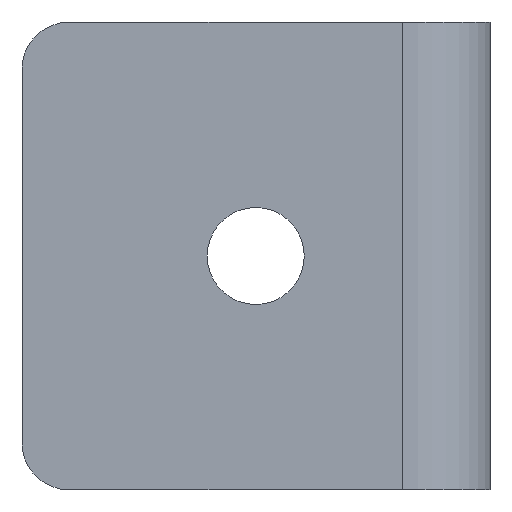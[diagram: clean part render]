
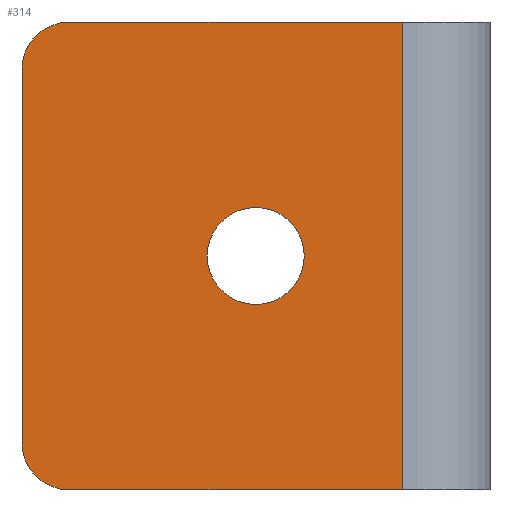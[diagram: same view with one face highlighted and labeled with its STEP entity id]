
A CAD part, left-side view. The second image highlights one B-rep face of the part: STEP entity #314.
In plain terms, the highlighted planar face has unit normal (-1, 0, 0).
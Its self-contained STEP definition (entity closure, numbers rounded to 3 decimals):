
#10 = VECTOR ( 'NONE', #50, 1000. ) ;
#19 = LINE ( 'NONE', #334, #174 ) ;
#26 = ORIENTED_EDGE ( 'NONE', *, *, #521, .T. ) ;
#46 = DIRECTION ( 'NONE',  ( 0., 0., 1. ) ) ;
#47 = CARTESIAN_POINT ( 'NONE',  ( -4.849, 35.049, 20. ) ) ;
#50 = DIRECTION ( 'NONE',  ( 0., -1., 0. ) ) ;
#66 = CARTESIAN_POINT ( 'NONE',  ( -4.849, 2.5, 20. ) ) ;
#70 = DIRECTION ( 'NONE',  ( 1., 0., 0. ) ) ;
#96 = LINE ( 'NONE', #47, #415 ) ;
#98 = EDGE_CURVE ( 'NONE', #247, #515, #498, .T. ) ;
#115 = AXIS2_PLACEMENT_3D ( 'NONE', #268, #216, #686 ) ;
#118 = CARTESIAN_POINT ( 'NONE',  ( -4.849, 15.049, 0. ) ) ;
#130 = VERTEX_POINT ( 'NONE', #457 ) ;
#131 = DIRECTION ( 'NONE',  ( 0., 0., -1. ) ) ;
#137 = DIRECTION ( 'NONE',  ( 1., 0., 0. ) ) ;
#143 = AXIS2_PLACEMENT_3D ( 'NONE', #251, #137, #574 ) ;
#144 = EDGE_CURVE ( 'NONE', #202, #410, #19, .T. ) ;
#173 = CARTESIAN_POINT ( 'NONE',  ( -4.849, 31.049, 20. ) ) ;
#174 = VECTOR ( 'NONE', #188, 1000. ) ;
#183 = ORIENTED_EDGE ( 'NONE', *, *, #484, .T. ) ;
#184 = DIRECTION ( 'NONE',  ( 0., 0., 1. ) ) ;
#185 = ORIENTED_EDGE ( 'NONE', *, *, #679, .T. ) ;
#188 = DIRECTION ( 'NONE',  ( 0., -1., 0. ) ) ;
#200 = AXIS2_PLACEMENT_3D ( 'NONE', #207, #572, #46 ) ;
#202 = VERTEX_POINT ( 'NONE', #239 ) ;
#207 = CARTESIAN_POINT ( 'NONE',  ( -4.849, 31.049, -16. ) ) ;
#216 = DIRECTION ( 'NONE',  ( -1., 0., 0. ) ) ;
#220 = CARTESIAN_POINT ( 'NONE',  ( -4.849, 2.5, -20. ) ) ;
#226 = DIRECTION ( 'NONE',  ( 0., 0., 1. ) ) ;
#228 = CARTESIAN_POINT ( 'NONE',  ( -4.849, 35.049, 16. ) ) ;
#236 = EDGE_LOOP ( 'NONE', ( #405, #26 ) ) ;
#239 = CARTESIAN_POINT ( 'NONE',  ( -4.849, 31.049, -20. ) ) ;
#247 = VERTEX_POINT ( 'NONE', #414 ) ;
#251 = CARTESIAN_POINT ( 'NONE',  ( -4.849, 35.049, 20. ) ) ;
#252 = ORIENTED_EDGE ( 'NONE', *, *, #638, .F. ) ;
#257 = FACE_BOUND ( 'NONE', #236, .T. ) ;
#260 = DIRECTION ( 'NONE',  ( 0., 0., -1. ) ) ;
#265 = EDGE_CURVE ( 'NONE', #582, #547, #420, .T. ) ;
#268 = CARTESIAN_POINT ( 'NONE',  ( -4.849, 31.049, 16. ) ) ;
#278 = AXIS2_PLACEMENT_3D ( 'NONE', #451, #70, #226 ) ;
#284 = ORIENTED_EDGE ( 'NONE', *, *, #369, .T. ) ;
#302 = AXIS2_PLACEMENT_3D ( 'NONE', #118, #441, #184 ) ;
#306 = CIRCLE ( 'NONE', #115, 4. ) ;
#314 = ADVANCED_FACE ( 'NONE', ( #370, #257 ), #411, .F. ) ;
#334 = CARTESIAN_POINT ( 'NONE',  ( -4.849, 35.049, -20. ) ) ;
#361 = ORIENTED_EDGE ( 'NONE', *, *, #144, .T. ) ;
#369 = EDGE_CURVE ( 'NONE', #554, #130, #96, .T. ) ;
#370 = FACE_OUTER_BOUND ( 'NONE', #656, .T. ) ;
#381 = VECTOR ( 'NONE', #131, 1000. ) ;
#405 = ORIENTED_EDGE ( 'NONE', *, *, #98, .T. ) ;
#410 = VERTEX_POINT ( 'NONE', #220 ) ;
#411 = PLANE ( 'NONE',  #143 ) ;
#414 = CARTESIAN_POINT ( 'NONE',  ( -4.849, 15.049, -4.15 ) ) ;
#415 = VECTOR ( 'NONE', #260, 1000. ) ;
#418 = CARTESIAN_POINT ( 'NONE',  ( -4.849, 35.049, 20. ) ) ;
#420 = LINE ( 'NONE', #418, #10 ) ;
#437 = CIRCLE ( 'NONE', #278, 4.15 ) ;
#441 = DIRECTION ( 'NONE',  ( 1., 0., 0. ) ) ;
#451 = CARTESIAN_POINT ( 'NONE',  ( -4.849, 15.049, 0. ) ) ;
#457 = CARTESIAN_POINT ( 'NONE',  ( -4.849, 35.049, -16. ) ) ;
#484 = EDGE_CURVE ( 'NONE', #582, #554, #306, .T. ) ;
#493 = CIRCLE ( 'NONE', #200, 4. ) ;
#498 = CIRCLE ( 'NONE', #302, 4.15 ) ;
#515 = VERTEX_POINT ( 'NONE', #644 ) ;
#521 = EDGE_CURVE ( 'NONE', #515, #247, #437, .T. ) ;
#547 = VERTEX_POINT ( 'NONE', #66 ) ;
#554 = VERTEX_POINT ( 'NONE', #228 ) ;
#572 = DIRECTION ( 'NONE',  ( -1., 0., 0. ) ) ;
#574 = DIRECTION ( 'NONE',  ( 0., 0., 1. ) ) ;
#582 = VERTEX_POINT ( 'NONE', #173 ) ;
#610 = CARTESIAN_POINT ( 'NONE',  ( -4.849, 2.5, 20. ) ) ;
#638 = EDGE_CURVE ( 'NONE', #547, #410, #676, .T. ) ;
#644 = CARTESIAN_POINT ( 'NONE',  ( -4.849, 15.049, 4.15 ) ) ;
#656 = EDGE_LOOP ( 'NONE', ( #252, #669, #183, #284, #185, #361 ) ) ;
#669 = ORIENTED_EDGE ( 'NONE', *, *, #265, .F. ) ;
#676 = LINE ( 'NONE', #610, #381 ) ;
#679 = EDGE_CURVE ( 'NONE', #130, #202, #493, .T. ) ;
#686 = DIRECTION ( 'NONE',  ( 0., 0., 1. ) ) ;
